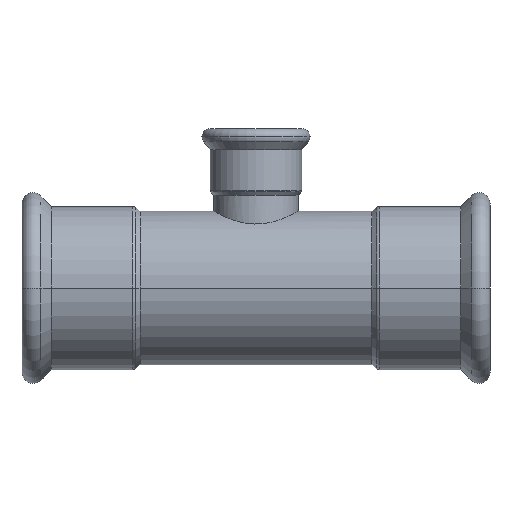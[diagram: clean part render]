
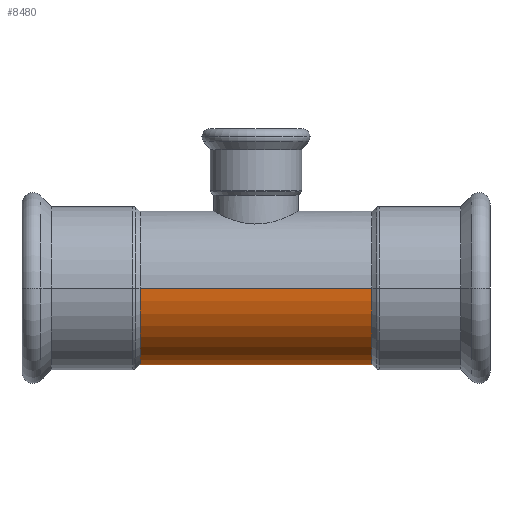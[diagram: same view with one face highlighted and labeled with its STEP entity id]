
A CAD part, front view. The second image highlights one B-rep face of the part: STEP entity #8480.
In plain terms, the highlighted cylindrical face has radius 38.05 mm (diameter 76.1 mm), a partial arc.
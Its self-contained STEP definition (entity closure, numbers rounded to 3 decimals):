
#1780=CARTESIAN_POINT('',(4.5,-38.05,0.));
#1790=VERTEX_POINT('',#1780);
#1970=CARTESIAN_POINT('',(4.5,38.05,0.));
#1980=VERTEX_POINT('',#1970);
#2010=CARTESIAN_POINT('',(4.5,0.,0.));
#2020=DIRECTION('',(1.,0.,0.));
#2030=DIRECTION('',(0.,1.,0.));
#2040=AXIS2_PLACEMENT_3D('',#2010,#2020,#2030);
#2050=CIRCLE('',#2040,38.05);
#2060=EDGE_CURVE('',#1790,#1980,#2050,.T.);
#4810=CARTESIAN_POINT('',(-110.5,38.05,0.));
#4820=VERTEX_POINT('',#4810);
#5000=CARTESIAN_POINT('',(-110.5,-38.05,0.));
#5010=VERTEX_POINT('',#5000);
#5040=CARTESIAN_POINT('',(-110.5,0.,0.));
#5050=DIRECTION('',(1.,0.,0.));
#5060=DIRECTION('',(0.,1.,0.));
#5070=AXIS2_PLACEMENT_3D('',#5040,#5050,#5060);
#5080=CIRCLE('',#5070,38.05);
#5090=EDGE_CURVE('',#5010,#4820,#5080,.T.);
#8270=CARTESIAN_POINT('',(4.5,0.,0.));
#8280=DIRECTION('',(1.,0.,0.));
#8290=DIRECTION('',(0.,1.,0.));
#8300=AXIS2_PLACEMENT_3D('',#8270,#8280,#8290);
#8310=CYLINDRICAL_SURFACE('',#8300,38.05);
#8320=CARTESIAN_POINT('',(4.5,-38.05,0.));
#8330=DIRECTION('',(1.,0.,0.));
#8340=VECTOR('',#8330,1.);
#8350=LINE('',#8320,#8340);
#8360=EDGE_CURVE('',#5010,#1790,#8350,.T.);
#8370=ORIENTED_EDGE('',*,*,#8360,.F.);
#8380=ORIENTED_EDGE('',*,*,#2060,.F.);
#8390=CARTESIAN_POINT('',(4.5,38.05,0.));
#8400=DIRECTION('',(1.,0.,0.));
#8410=VECTOR('',#8400,1.);
#8420=LINE('',#8390,#8410);
#8430=EDGE_CURVE('',#4820,#1980,#8420,.T.);
#8440=ORIENTED_EDGE('',*,*,#8430,.T.);
#8450=ORIENTED_EDGE('',*,*,#5090,.T.);
#8460=EDGE_LOOP('',(#8450,#8440,#8380,#8370));
#8470=FACE_OUTER_BOUND('',#8460,.T.);
#8480=ADVANCED_FACE('',(#8470),#8310,.T.);
